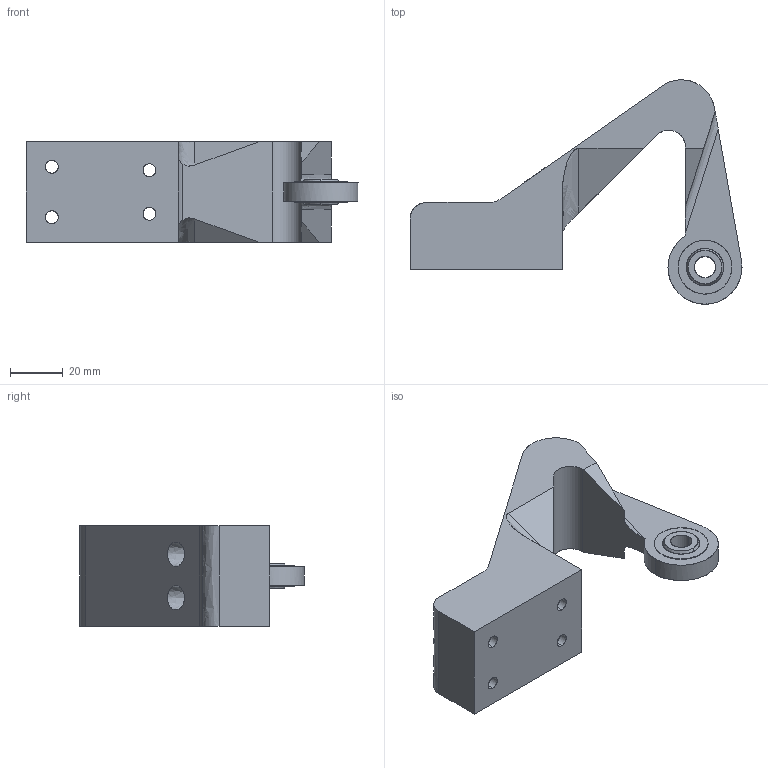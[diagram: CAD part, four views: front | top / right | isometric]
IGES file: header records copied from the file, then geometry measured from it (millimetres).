
Start section: SolidWorks IGES file using NURBS representation for surfaces
Global section: file name: C:\Users\prachw\Documents\GrabCAD Challenge\AssemblyModel\Bearing_Bracket_Assy_IGES.IGS; native system: SolidWorks 2015; preprocessor: SolidWorks 2015; author: prachw; date: 160108.132153; units: millimetre
Bounding box: 125.34 x 84.67 x 38.1 mm (x, y, z)
Surface area: 25909.1 mm2 (no closed solid volume)
Topology: 0 solids, 0 shells, 80 faces, 1576 edges, 1576 vertices
Faces by surface type: bspline 80
